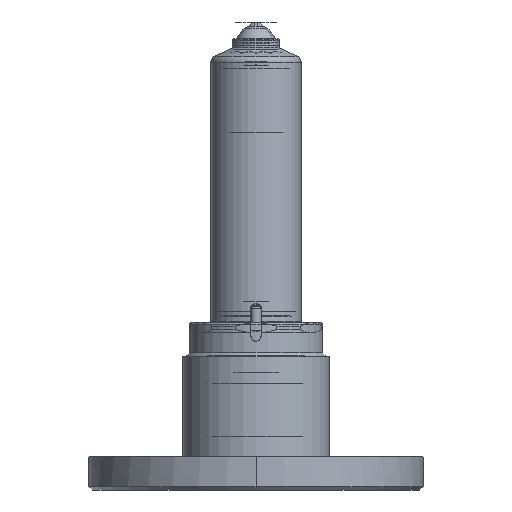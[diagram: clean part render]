
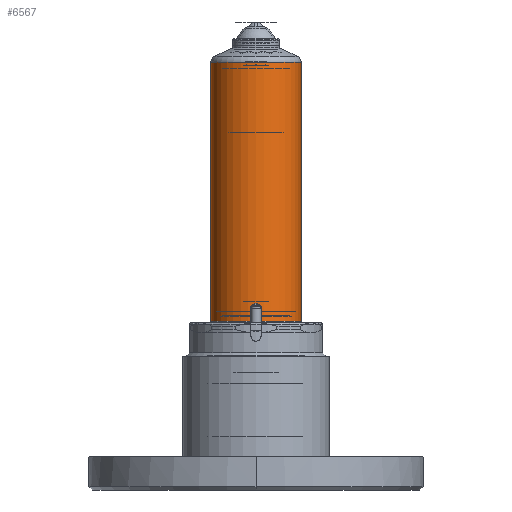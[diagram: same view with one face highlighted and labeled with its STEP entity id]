
A CAD part, front view. The second image highlights one B-rep face of the part: STEP entity #6567.
In plain terms, the highlighted cylindrical face has radius 13.5 mm (diameter 27 mm), a partial arc.
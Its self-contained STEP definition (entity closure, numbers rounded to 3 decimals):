
#317 = CARTESIAN_POINT ( 'NONE',  ( -13.5, 0., 40.5 ) ) ;
#422 = CARTESIAN_POINT ( 'NONE',  ( 13.5, 0., 47.584 ) ) ;
#585 = CIRCLE ( 'NONE', #16974, 13.5 ) ;
#1772 = CARTESIAN_POINT ( 'NONE',  ( 13.5, 0., 40.5 ) ) ;
#2209 = CARTESIAN_POINT ( 'NONE',  ( 13.5, 0., 117.995 ) ) ;
#2744 = EDGE_CURVE ( 'NONE', #13295, #4704, #585, .T. ) ;
#3555 = CARTESIAN_POINT ( 'NONE',  ( -13.5, 0., 47.584 ) ) ;
#3666 = CYLINDRICAL_SURFACE ( 'NONE', #15214, 13.5 ) ;
#4704 = VERTEX_POINT ( 'NONE', #1772 ) ;
#6567 = ADVANCED_FACE ( 'NONE', ( #6795 ), #3666, .T. ) ;
#6795 = FACE_OUTER_BOUND ( 'NONE', #13758, .T. ) ;
#8156 = DIRECTION ( 'NONE',  ( 0., 0., 1. ) ) ;
#8813 = DIRECTION ( 'NONE',  ( 0., 0., -1. ) ) ;
#9379 = VERTEX_POINT ( 'NONE', #12853 ) ;
#9711 = LINE ( 'NONE', #3555, #11025 ) ;
#9963 = LINE ( 'NONE', #422, #16523 ) ;
#10943 = CARTESIAN_POINT ( 'NONE',  ( 0., 0., 47.584 ) ) ;
#11025 = VECTOR ( 'NONE', #20452, 1000. ) ;
#11877 = EDGE_CURVE ( 'NONE', #4704, #16345, #9963, .T. ) ;
#12093 = EDGE_CURVE ( 'NONE', #16345, #9379, #17774, .T. ) ;
#12488 = ORIENTED_EDGE ( 'NONE', *, *, #2744, .T. ) ;
#12769 = DIRECTION ( 'NONE',  ( 1., 0., 0. ) ) ;
#12853 = CARTESIAN_POINT ( 'NONE',  ( -13.5, 0., 117.995 ) ) ;
#12893 = AXIS2_PLACEMENT_3D ( 'NONE', #15732, #8813, #19080 ) ;
#13295 = VERTEX_POINT ( 'NONE', #317 ) ;
#13758 = EDGE_LOOP ( 'NONE', ( #18550, #12488, #17450, #19337 ) ) ;
#14179 = DIRECTION ( 'NONE',  ( 1., 0., 0. ) ) ;
#15214 = AXIS2_PLACEMENT_3D ( 'NONE', #10943, #8156, #12769 ) ;
#15732 = CARTESIAN_POINT ( 'NONE',  ( 0., 0., 117.995 ) ) ;
#16345 = VERTEX_POINT ( 'NONE', #2209 ) ;
#16523 = VECTOR ( 'NONE', #20471, 1000. ) ;
#16762 = DIRECTION ( 'NONE',  ( 0., 0., 1. ) ) ;
#16974 = AXIS2_PLACEMENT_3D ( 'NONE', #17097, #16762, #14179 ) ;
#16982 = EDGE_CURVE ( 'NONE', #13295, #9379, #9711, .T. ) ;
#17097 = CARTESIAN_POINT ( 'NONE',  ( 0., 0., 40.5 ) ) ;
#17450 = ORIENTED_EDGE ( 'NONE', *, *, #11877, .T. ) ;
#17774 = CIRCLE ( 'NONE', #12893, 13.5 ) ;
#18550 = ORIENTED_EDGE ( 'NONE', *, *, #16982, .F. ) ;
#19080 = DIRECTION ( 'NONE',  ( 1., 0., 0. ) ) ;
#19337 = ORIENTED_EDGE ( 'NONE', *, *, #12093, .T. ) ;
#20452 = DIRECTION ( 'NONE',  ( 0., 0., 1. ) ) ;
#20471 = DIRECTION ( 'NONE',  ( 0., 0., 1. ) ) ;
